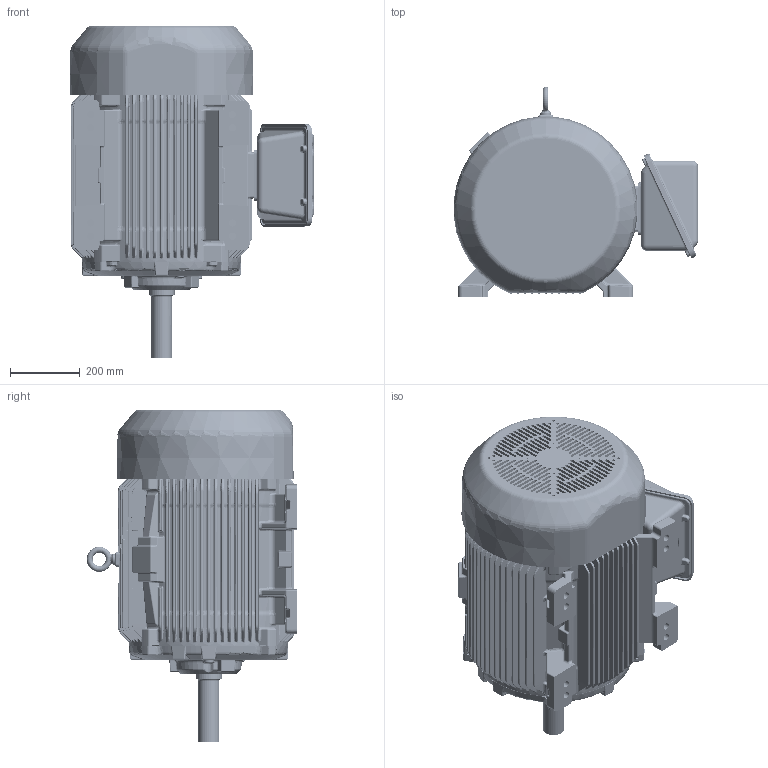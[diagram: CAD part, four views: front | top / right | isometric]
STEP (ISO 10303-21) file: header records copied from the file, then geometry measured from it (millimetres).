
FILE_DESCRIPTION((''),'2;1');
FILE_NAME('400_3D_ASM_ASM','2019-08-29T08:43:37',('EMD2341'),('Nidec Motor Corporation'),'CREO PARAMETRIC BY PTC INC, 2018300','CREO PARAMETRIC BY PTC INC, 2018300','');
FILE_SCHEMA(('CONFIG_CONTROL_DESIGN'));
Length unit declared in the file: inch
Products named in the file (10): 400_FOOTED_FRAME; 400_DE_BRKT; 400_T; 0013350; 400_CAST_GSK_OBB; 400_OBB_NEMA; 400_CAST_GSK_OBC; 400_CAST_OBC; 400_STL_FCVR; 400_3D_ASM_ASM
Assembly tree (9 placements, depth 2):
  400_3D_ASM_ASM
    400_FOOTED_FRAME
    400_DE_BRKT
    400_T
    0013350
    400_CAST_GSK_OBB
    400_OBB_NEMA
    400_CAST_GSK_OBC
    400_CAST_OBC
    400_STL_FCVR
Bounding box: 701.94 x 604.01 x 952.5 mm (x, y, z)
Volume: 148936134.4 mm3; surface area: 4655098.8 mm2
Topology: 9 solids, 10 shells, 6152 faces, 14167 edges, 8156 vertices
Faces by surface type: bspline 2612, cylinder 1330, plane 1260, extrusion 430, torus 364, sphere 92, cone 64
Entity records: 280933 total; most frequent: CARTESIAN_POINT 160452, ORIENTED_EDGE 28314, DIRECTION 19760, EDGE_CURVE 14159, VERTEX_POINT 8156, AXIS2_PLACEMENT_3D 7349, EDGE_LOOP 6311, FACE_OUTER_BOUND 6152
